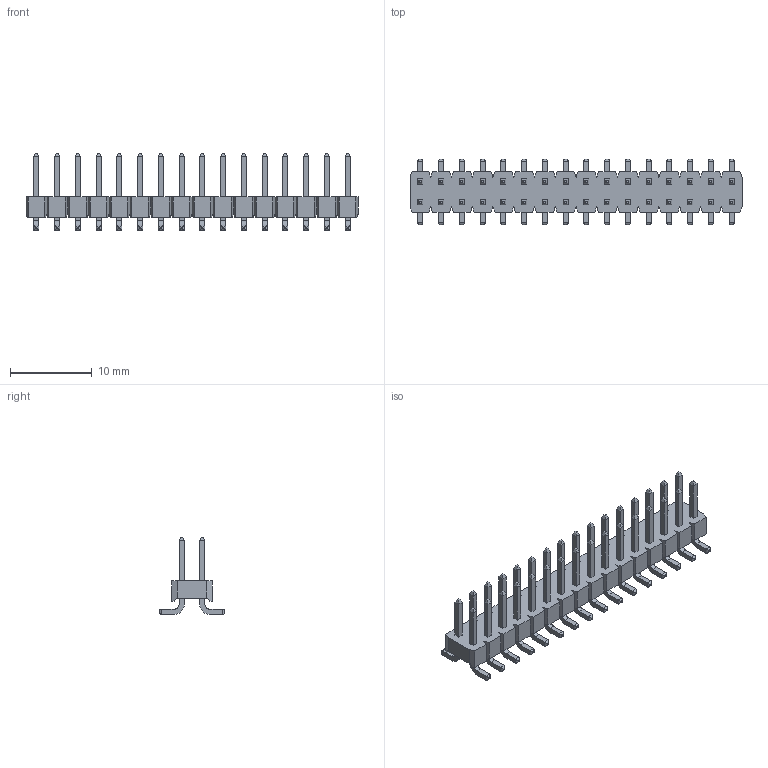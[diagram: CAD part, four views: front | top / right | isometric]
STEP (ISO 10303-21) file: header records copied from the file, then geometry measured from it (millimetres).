
FILE_DESCRIPTION(/* description */ (''),/* implementation_level */ '2;1');
FILE_NAME(/* name */ '961232-6300-XX-XX',/* time_stamp */ '2007-06-18T12:42:27+02:00',/* author */ (''),/* organization */ (''),/* preprocessor_version */ 'ST-DEVELOPER v9',/* originating_system */ 'UGS - NX 4.0',/* authorisation */ '');
FILE_SCHEMA (('AUTOMOTIVE_DESIGN { 1 0 10303 214 1 1 1 1 }'));
Length unit declared in the file: millimetre
Products named in the file (1): 961232-6300-XX-XX
Bounding box: 40.64 x 8 x 9.4 mm (x, y, z)
Volume: 542.4 mm3; surface area: 1427.5 mm2
Topology: 1 solids, 1 shells, 868 faces, 2150 edges, 1348 vertices
Faces by surface type: plane 676, cylinder 192
Entity records: 25106 total; most frequent: CARTESIAN_POINT 4367, ORIENTED_EDGE 4300, DIRECTION 4144, EDGE_CURVE 2150, LINE 1894, VECTOR 1894, VERTEX_POINT 1348, AXIS2_PLACEMENT_3D 1125
